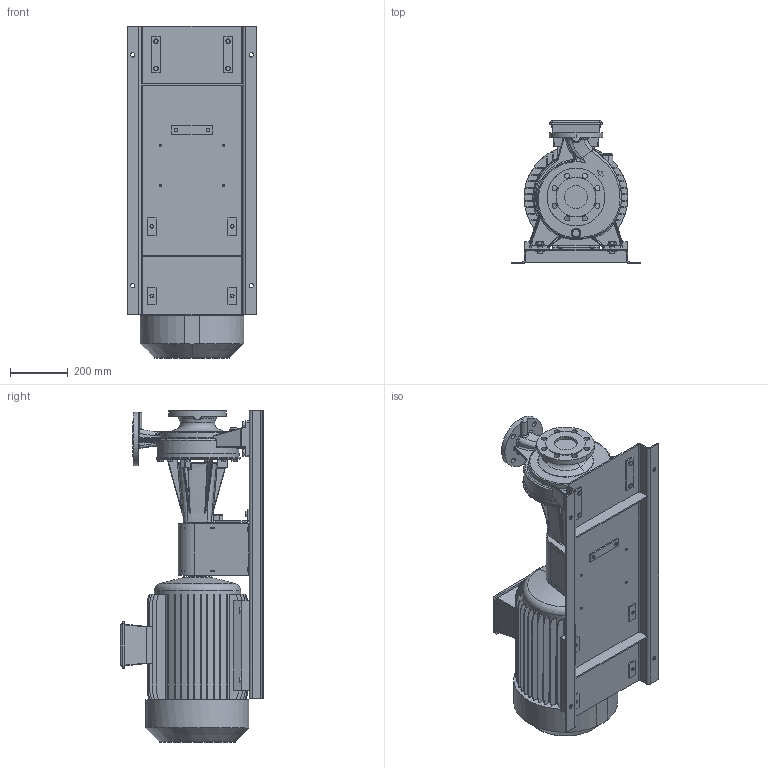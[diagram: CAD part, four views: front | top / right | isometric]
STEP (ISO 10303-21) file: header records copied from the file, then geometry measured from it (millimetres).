
FILE_DESCRIPTION((''),'2;1');
FILE_NAME('3DP_65-200_22_IE3_ASM','2018-06-17T',('rosa'),('"Ebara Pumps Europe +39.444.706811"'),'PRO/ENGINEER BY PARAMETRIC TECHNOLOGY CORPORATION, 2012130','PRO/ENGINEER BY PARAMETRIC TECHNOLOGY CORPORATION, 2012130','');
FILE_SCHEMA(('AUTOMOTIVE_DESIGN { 1 0 10303 214 1 1 1 1 }'));
Products named in the file (16): CORPO_POMPA_3D_65-200_8_HOLES; 80619; 80617; SOSTEGNO_SUPPORTO_3P_72161; 367617005; M12X30; 72166; GIUNTO_3P_24X48; COPRIGIUNTO_73120; 360610012; VITE_8-8_TEIF_UNI5739-M16X030; VITE_8-8_TEIF_UNI5739-M08X010; LAFERT_MEC180M_B3_IE3; VITE_8-8_TEIF_UNI5739-M12X020; VITE_8-8_TEIF_UNI5739-M12X030; 3DP_65-200_22_IE3_ASM
Assembly tree (28 placements, depth 2):
  3DP_65-200_22_IE3_ASM
    CORPO_POMPA_3D_65-200_8_HOLES
    80619
    80617
    SOSTEGNO_SUPPORTO_3P_72161
    367617005
    M12X30
    72166
    GIUNTO_3P_24X48
    COPRIGIUNTO_73120
    360610012  x4
    VITE_8-8_TEIF_UNI5739-M16X030  x4
    VITE_8-8_TEIF_UNI5739-M08X010  x4
    LAFERT_MEC180M_B3_IE3
    VITE_8-8_TEIF_UNI5739-M12X020  x2
    VITE_8-8_TEIF_UNI5739-M12X030  x4
Bounding box: 450 x 498 x 1150 mm (x, y, z)
Volume: 63702826.5 mm3; surface area: 4018057.7 mm2
Topology: 30 solids, 46 shells, 1781 faces, 4472 edges, 2843 vertices
Faces by surface type: plane 903, cylinder 395, bspline 223, cone 173, torus 72, sphere 15
Entity records: 74048 total; most frequent: CARTESIAN_POINT 22858, ORIENTED_EDGE 7896, DIRECTION 7180, PRESENTATION_STYLE_ASSIGNMENT 3977, STYLED_ITEM 3977, CURVE_STYLE 3956, EDGE_CURVE 3956, VERTEX_POINT 2519
